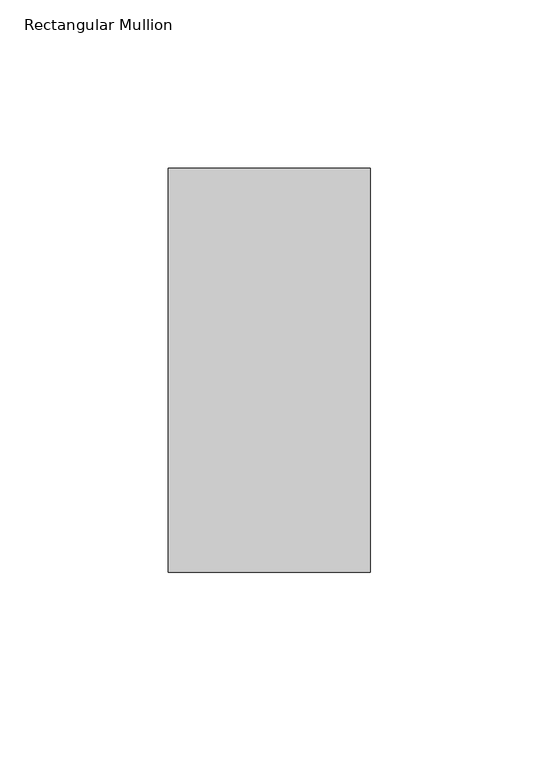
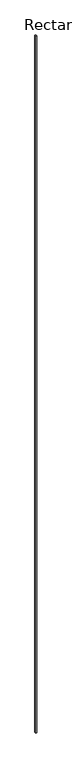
"""IFC4 building model written with IfcOpenShell, lengths in millimetres: member geometry, Rectangular Mullion : Terça."""

from ifc_helpers import new_model, si_unit, frame, origin, place, context, project, spatial, polyline, outline, extrude, source, transform, mapped, element, save


def rectangular_mullion_28594df3(model_context):
    return source(origin(), model_context, "Body", "SweptSolid", [
        extrude(outline(polyline([(0.0, -120.0), (-60.0, -120.0), (-60.0, 0.0), (0.0, 0.0), (0.0, -120.0)])), frame((0.0, 0.0, -46920.4270994), z_axis=(0.0, 0.0, 1.0), x_axis=(1.0, 0.0, 0.0)), (0.0, 0.0, 1.0), 46920.4270994),
    ])


if __name__ == "__main__":
    model = new_model("IFC4")
    model_context = context("Model", 3, world=origin())
    ifc_project = project(units=[si_unit("LENGTHUNIT", "METRE", prefix="MILLI")], contexts=[model_context])
    site = spatial("IfcSite", under=ifc_project)
    building = spatial("IfcBuilding", under=site)
    placement = place(None, origin())
    rectangular_mullion_shape = rectangular_mullion_28594df3(model_context)
    element("IfcMember", 1, ObjectType="Rectangular Mullion : Terça", at=placement, inside=building, context=model_context, shape_type="MappedRepresentation", body=[
        mapped(rectangular_mullion_shape, transform((0.0, 0.0, 0.0), x_axis=(1.0, 0.0, 0.0), y_axis=(0.0, 1.0, 0.0), z_axis=(0.0, 0.0, 1.0))),
    ])
    save(model, "model.ifc")
